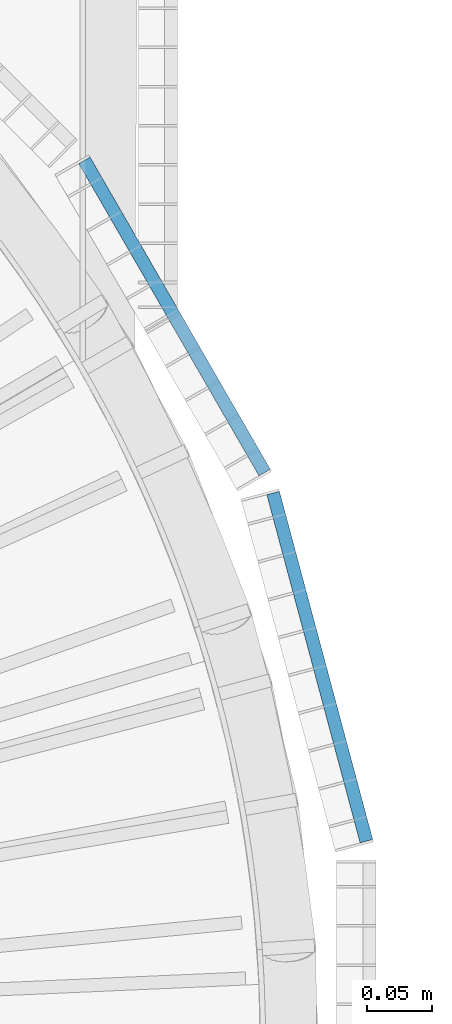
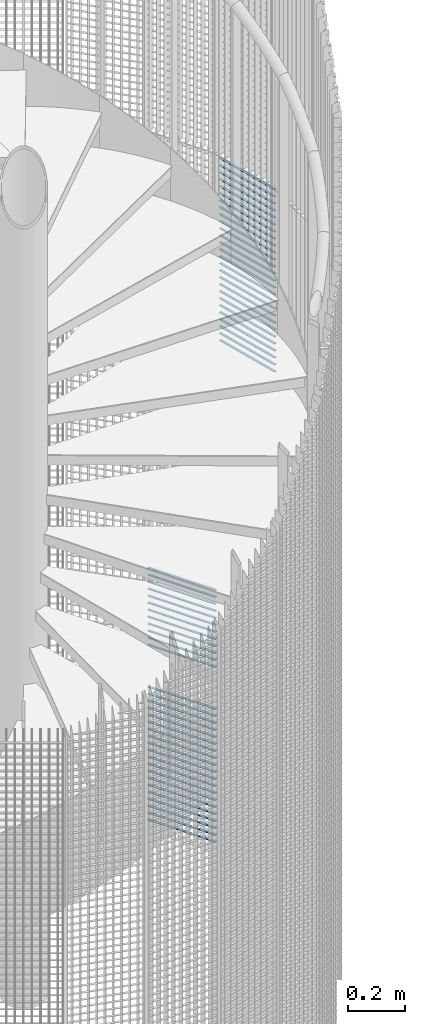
# One storey, part 298 of 1148: 59 beams, 2 elements without a shape of their own.
"""IFC2X3 building model written with IfcOpenShell, lengths in millimetres."""

from ifc_helpers import new_model, si_unit, frame, origin_with_axes, origin_2d_with_axis, place, context, subcontext, project, spatial, rectangle, extrude, material, type_object, element, aggregate, save


model = new_model("IFC2X3")

# Units and contexts
model_context = context("Model", 3, precision=1e-05, world=origin_with_axes())
body_context = subcontext(model_context, "Body", "Model", "MODEL_VIEW")
ifc_project = project(units=[si_unit("LENGTHUNIT", "METRE", prefix="MILLI"), si_unit("AREAUNIT", "SQUARE_METRE"), si_unit("VOLUMEUNIT", "CUBIC_METRE"), si_unit("MASSUNIT", "GRAM", prefix="KILO"), si_unit("TIMEUNIT", "SECOND"), si_unit("PLANEANGLEUNIT", "RADIAN"), si_unit("SOLIDANGLEUNIT", "STERADIAN"), si_unit("THERMODYNAMICTEMPERATUREUNIT", "DEGREE_CELSIUS"), si_unit("LUMINOUSINTENSITYUNIT", "LUMEN")], contexts=[model_context])

# Site, building, storey
site_placement = place(None, origin_with_axes())
site = spatial("IfcSite", under=ifc_project, at=site_placement, Name="Undefined", CompositionType="ELEMENT")
building_placement = place(site_placement, origin_with_axes())
building = spatial("IfcBuilding", under=site, at=building_placement, Name="Undefined", CompositionType="ELEMENT")
storey_placement = place(building_placement, origin_with_axes())
storey = spatial("IfcBuildingStorey", under=building, at=storey_placement, Name="Undefined", CompositionType="ELEMENT", Elevation=0.0)

# Assembly, beams
assembly_1_placement = place(storey_placement, origin_with_axes())
assembly_1 = element("IfcElementAssembly", 1, at=assembly_1_placement, inside=storey, Name="BORDURE", AssemblyPlace="NOTDEFINED", PredefinedType="NOTDEFINED")
ifc_material = material(Name="STEEL/S235JR")
beam_type = type_object("IfcBeamType", Name="PL2*10", PredefinedType="NOTDEFINED")
beam_1_placement = place(assembly_1_placement, frame((1033.29996828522, 437.231955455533, 779.999999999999), z_axis=(0.866025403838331, 0.499999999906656, 0.0), x_axis=(-0.49999999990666, 0.866025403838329, 0.0)))
beam_1 = element("IfcBeam", 2, at=beam_1_placement, type_object=beam_type, material=ifc_material, Name="ENTRETOISE", context=body_context, shape_type="SweptSolid", body=[
    extrude(rectangle(XDim=2.0, YDim=10.0, at=origin_2d_with_axis()), frame((275.999999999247, 9.09494701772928e-13, 1.53210777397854e-14), z_axis=(-1.0, 0.0, 0.0), x_axis=(0.0, -1.0, 0.0)), (0.0, 0.0, 1.0), 276.0),
])
beam_2_placement = place(assembly_1_placement, frame((1033.29996828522, 437.231955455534, 599.999999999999), z_axis=(0.866025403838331, 0.499999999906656, 0.0), x_axis=(-0.49999999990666, 0.866025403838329, 0.0)))
beam_2 = element("IfcBeam", 3, at=beam_2_placement, type_object=beam_type, material=ifc_material, Name="ENTRETOISE", context=body_context, shape_type="SweptSolid", body=[
    extrude(rectangle(XDim=2.0, YDim=10.0, at=origin_2d_with_axis()), frame((275.999999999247, 9.09494701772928e-13, 1.53210777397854e-14), z_axis=(-1.0, 0.0, 0.0), x_axis=(0.0, -1.0, 0.0)), (0.0, 0.0, 1.0), 276.0),
])
beam_3_placement = place(assembly_1_placement, frame((1033.29996828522, 437.231955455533, 809.999999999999), z_axis=(0.866025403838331, 0.499999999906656, 0.0), x_axis=(-0.49999999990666, 0.866025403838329, 0.0)))
beam_3 = element("IfcBeam", 4, at=beam_3_placement, type_object=beam_type, material=ifc_material, Name="ENTRETOISE", context=body_context, shape_type="SweptSolid", body=[
    extrude(rectangle(XDim=2.0, YDim=10.0, at=origin_2d_with_axis()), frame((275.999999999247, 9.09494701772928e-13, 1.53210777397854e-14), z_axis=(-1.0, 0.0, 0.0), x_axis=(0.0, -1.0, 0.0)), (0.0, 0.0, 1.0), 276.0),
])
beam_4_placement = place(assembly_1_placement, frame((1033.29996828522, 437.231955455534, 569.999999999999), z_axis=(0.866025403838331, 0.499999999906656, 0.0), x_axis=(-0.49999999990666, 0.866025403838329, 0.0)))
beam_4 = element("IfcBeam", 5, at=beam_4_placement, type_object=beam_type, material=ifc_material, Name="ENTRETOISE", context=body_context, shape_type="SweptSolid", body=[
    extrude(rectangle(XDim=2.0, YDim=10.0, at=origin_2d_with_axis()), frame((275.999999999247, 9.09494701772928e-13, 1.53210777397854e-14), z_axis=(-1.0, 0.0, 0.0), x_axis=(0.0, -1.0, 0.0)), (0.0, 0.0, 1.0), 276.0),
])
beam_5_placement = place(assembly_1_placement, frame((1033.29996828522, 437.231955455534, 539.999999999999), z_axis=(0.866025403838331, 0.499999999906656, 0.0), x_axis=(-0.49999999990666, 0.866025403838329, 0.0)))
beam_5 = element("IfcBeam", 6, at=beam_5_placement, type_object=beam_type, material=ifc_material, Name="ENTRETOISE", context=body_context, shape_type="SweptSolid", body=[
    extrude(rectangle(XDim=2.0, YDim=10.0, at=origin_2d_with_axis()), frame((275.999999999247, 9.09494701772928e-13, 1.53210777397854e-14), z_axis=(-1.0, 0.0, 0.0), x_axis=(0.0, -1.0, 0.0)), (0.0, 0.0, 1.0), 276.0),
])
beam_6_placement = place(assembly_1_placement, frame((1033.29996828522, 437.231955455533, 839.999999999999), z_axis=(0.866025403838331, 0.499999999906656, 0.0), x_axis=(-0.49999999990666, 0.866025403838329, 0.0)))
beam_6 = element("IfcBeam", 7, at=beam_6_placement, type_object=beam_type, material=ifc_material, Name="ENTRETOISE", context=body_context, shape_type="SweptSolid", body=[
    extrude(rectangle(XDim=2.0, YDim=10.0, at=origin_2d_with_axis()), frame((275.999999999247, 9.09494701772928e-13, 1.53210777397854e-14), z_axis=(-1.0, 0.0, 0.0), x_axis=(0.0, -1.0, 0.0)), (0.0, 0.0, 1.0), 276.0),
])
beam_7_placement = place(assembly_1_placement, frame((1033.29996828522, 437.231955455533, 509.999999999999), z_axis=(0.866025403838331, 0.499999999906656, 0.0), x_axis=(-0.49999999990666, 0.866025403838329, 0.0)))
beam_7 = element("IfcBeam", 8, at=beam_7_placement, type_object=beam_type, material=ifc_material, Name="ENTRETOISE", context=body_context, shape_type="SweptSolid", body=[
    extrude(rectangle(XDim=2.0, YDim=10.0, at=origin_2d_with_axis()), frame((275.999999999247, 9.09494701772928e-13, 1.53210777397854e-14), z_axis=(-1.0, 0.0, 0.0), x_axis=(0.0, -1.0, 0.0)), (0.0, 0.0, 1.0), 276.0),
])
beam_8_placement = place(assembly_1_placement, frame((1033.29996828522, 437.231955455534, 479.999999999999), z_axis=(0.866025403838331, 0.499999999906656, 0.0), x_axis=(-0.49999999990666, 0.866025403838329, 0.0)))
beam_8 = element("IfcBeam", 9, at=beam_8_placement, type_object=beam_type, material=ifc_material, Name="ENTRETOISE", context=body_context, shape_type="SweptSolid", body=[
    extrude(rectangle(XDim=2.0, YDim=10.0, at=origin_2d_with_axis()), frame((275.999999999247, 9.09494701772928e-13, 1.53210777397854e-14), z_axis=(-1.0, 0.0, 0.0), x_axis=(0.0, -1.0, 0.0)), (0.0, 0.0, 1.0), 276.0),
])
beam_9_placement = place(assembly_1_placement, frame((1033.29996828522, 437.231955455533, 869.999999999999), z_axis=(0.866025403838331, 0.499999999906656, 0.0), x_axis=(-0.49999999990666, 0.866025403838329, 0.0)))
beam_9 = element("IfcBeam", 10, at=beam_9_placement, type_object=beam_type, material=ifc_material, Name="ENTRETOISE", context=body_context, shape_type="SweptSolid", body=[
    extrude(rectangle(XDim=2.0, YDim=10.0, at=origin_2d_with_axis()), frame((275.999999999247, 9.09494701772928e-13, 1.53210777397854e-14), z_axis=(-1.0, 0.0, 0.0), x_axis=(0.0, -1.0, 0.0)), (0.0, 0.0, 1.0), 276.0),
])
beam_10_placement = place(assembly_1_placement, frame((1033.29996828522, 437.231955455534, 449.999999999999), z_axis=(0.866025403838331, 0.499999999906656, 0.0), x_axis=(-0.49999999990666, 0.866025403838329, 0.0)))
beam_10 = element("IfcBeam", 11, at=beam_10_placement, type_object=beam_type, material=ifc_material, Name="ENTRETOISE", context=body_context, shape_type="SweptSolid", body=[
    extrude(rectangle(XDim=2.0, YDim=10.0, at=origin_2d_with_axis()), frame((275.999999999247, 9.09494701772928e-13, 1.53210777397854e-14), z_axis=(-1.0, 0.0, 0.0), x_axis=(0.0, -1.0, 0.0)), (0.0, 0.0, 1.0), 276.0),
])
beam_11_placement = place(assembly_1_placement, frame((1033.29996828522, 437.231955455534, 419.999999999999), z_axis=(0.866025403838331, 0.499999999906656, 0.0), x_axis=(-0.49999999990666, 0.866025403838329, 0.0)))
beam_11 = element("IfcBeam", 12, at=beam_11_placement, type_object=beam_type, material=ifc_material, Name="ENTRETOISE", context=body_context, shape_type="SweptSolid", body=[
    extrude(rectangle(XDim=2.0, YDim=10.0, at=origin_2d_with_axis()), frame((275.999999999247, 9.09494701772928e-13, 1.53210777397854e-14), z_axis=(-1.0, 0.0, 0.0), x_axis=(0.0, -1.0, 0.0)), (0.0, 0.0, 1.0), 276.0),
])
beam_12_placement = place(assembly_1_placement, frame((1033.29996828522, 437.231955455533, 899.999999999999), z_axis=(0.866025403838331, 0.499999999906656, 0.0), x_axis=(-0.49999999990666, 0.866025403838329, 0.0)))
beam_12 = element("IfcBeam", 13, at=beam_12_placement, type_object=beam_type, material=ifc_material, Name="ENTRETOISE", context=body_context, shape_type="SweptSolid", body=[
    extrude(rectangle(XDim=2.0, YDim=10.0, at=origin_2d_with_axis()), frame((275.999999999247, 9.09494701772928e-13, 1.53210777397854e-14), z_axis=(-1.0, 0.0, 0.0), x_axis=(0.0, -1.0, 0.0)), (0.0, 0.0, 1.0), 276.0),
])
beam_13_placement = place(assembly_1_placement, frame((1033.29996828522, 437.231955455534, 389.999999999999), z_axis=(0.866025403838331, 0.499999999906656, 0.0), x_axis=(-0.49999999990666, 0.866025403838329, 0.0)))
beam_13 = element("IfcBeam", 14, at=beam_13_placement, type_object=beam_type, material=ifc_material, Name="ENTRETOISE", context=body_context, shape_type="SweptSolid", body=[
    extrude(rectangle(XDim=2.0, YDim=10.0, at=origin_2d_with_axis()), frame((275.999999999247, 9.09494701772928e-13, 1.53210777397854e-14), z_axis=(-1.0, 0.0, 0.0), x_axis=(0.0, -1.0, 0.0)), (0.0, 0.0, 1.0), 276.0),
])
beam_14_placement = place(assembly_1_placement, frame((1033.29996828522, 437.231955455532, 929.999999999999), z_axis=(0.866025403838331, 0.499999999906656, 0.0), x_axis=(-0.49999999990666, 0.866025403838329, 0.0)))
beam_14 = element("IfcBeam", 15, at=beam_14_placement, type_object=beam_type, material=ifc_material, Name="ENTRETOISE", context=body_context, shape_type="SweptSolid", body=[
    extrude(rectangle(XDim=2.0, YDim=10.0, at=origin_2d_with_axis()), frame((275.999999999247, 9.09494701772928e-13, 1.53210777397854e-14), z_axis=(-1.0, 0.0, 0.0), x_axis=(0.0, -1.0, 0.0)), (0.0, 0.0, 1.0), 276.0),
])
beam_15_placement = place(assembly_1_placement, frame((1033.29996828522, 437.231955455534, 359.999999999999), z_axis=(0.866025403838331, 0.499999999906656, 0.0), x_axis=(-0.49999999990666, 0.866025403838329, 0.0)))
beam_15 = element("IfcBeam", 16, at=beam_15_placement, type_object=beam_type, material=ifc_material, Name="ENTRETOISE", context=body_context, shape_type="SweptSolid", body=[
    extrude(rectangle(XDim=2.0, YDim=10.0, at=origin_2d_with_axis()), frame((275.999999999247, 9.09494701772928e-13, 1.53210777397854e-14), z_axis=(-1.0, 0.0, 0.0), x_axis=(0.0, -1.0, 0.0)), (0.0, 0.0, 1.0), 276.0),
])
beam_16_placement = place(assembly_1_placement, frame((1033.29996828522, 437.231955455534, 329.999999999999), z_axis=(0.866025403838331, 0.499999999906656, 0.0), x_axis=(-0.49999999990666, 0.866025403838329, 0.0)))
beam_16 = element("IfcBeam", 17, at=beam_16_placement, type_object=beam_type, material=ifc_material, Name="ENTRETOISE", context=body_context, shape_type="SweptSolid", body=[
    extrude(rectangle(XDim=2.0, YDim=10.0, at=origin_2d_with_axis()), frame((275.999999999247, 9.09494701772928e-13, 1.53210777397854e-14), z_axis=(-1.0, 0.0, 0.0), x_axis=(0.0, -1.0, 0.0)), (0.0, 0.0, 1.0), 276.0),
])
beam_17_placement = place(assembly_1_placement, frame((1033.29996828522, 437.231955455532, 959.999999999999), z_axis=(0.866025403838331, 0.499999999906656, 0.0), x_axis=(-0.49999999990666, 0.866025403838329, 0.0)))
beam_17 = element("IfcBeam", 18, at=beam_17_placement, type_object=beam_type, material=ifc_material, Name="ENTRETOISE", context=body_context, shape_type="SweptSolid", body=[
    extrude(rectangle(XDim=2.0, YDim=10.0, at=origin_2d_with_axis()), frame((275.999999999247, 9.09494701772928e-13, 1.53210777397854e-14), z_axis=(-1.0, 0.0, 0.0), x_axis=(0.0, -1.0, 0.0)), (0.0, 0.0, 1.0), 276.0),
])
beam_18_placement = place(assembly_1_placement, frame((1033.29996828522, 437.231955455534, 299.999999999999), z_axis=(0.866025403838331, 0.499999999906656, 0.0), x_axis=(-0.49999999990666, 0.866025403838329, 0.0)))
beam_18 = element("IfcBeam", 19, at=beam_18_placement, type_object=beam_type, material=ifc_material, Name="ENTRETOISE", context=body_context, shape_type="SweptSolid", body=[
    extrude(rectangle(XDim=2.0, YDim=10.0, at=origin_2d_with_axis()), frame((275.999999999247, 9.09494701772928e-13, 1.53210777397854e-14), z_axis=(-1.0, 0.0, 0.0), x_axis=(0.0, -1.0, 0.0)), (0.0, 0.0, 1.0), 276.0),
])
beam_19_placement = place(assembly_1_placement, frame((1033.29996828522, 437.231955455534, 269.999999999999), z_axis=(0.866025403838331, 0.499999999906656, 0.0), x_axis=(-0.49999999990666, 0.866025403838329, 0.0)))
beam_19 = element("IfcBeam", 20, at=beam_19_placement, type_object=beam_type, material=ifc_material, Name="ENTRETOISE", context=body_context, shape_type="SweptSolid", body=[
    extrude(rectangle(XDim=2.0, YDim=10.0, at=origin_2d_with_axis()), frame((275.999999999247, 9.09494701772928e-13, 1.53210777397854e-14), z_axis=(-1.0, 0.0, 0.0), x_axis=(0.0, -1.0, 0.0)), (0.0, 0.0, 1.0), 276.0),
])
beam_20_placement = place(assembly_1_placement, frame((1033.29996828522, 437.231955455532, 989.999999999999), z_axis=(0.866025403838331, 0.499999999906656, 0.0), x_axis=(-0.49999999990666, 0.866025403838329, 0.0)))
beam_20 = element("IfcBeam", 21, at=beam_20_placement, type_object=beam_type, material=ifc_material, Name="ENTRETOISE", context=body_context, shape_type="SweptSolid", body=[
    extrude(rectangle(XDim=2.0, YDim=10.0, at=origin_2d_with_axis()), frame((275.999999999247, 9.09494701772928e-13, 1.53210777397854e-14), z_axis=(-1.0, 0.0, 0.0), x_axis=(0.0, -1.0, 0.0)), (0.0, 0.0, 1.0), 276.0),
])
beam_21_placement = place(assembly_1_placement, frame((1033.29996828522, 437.231955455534, 239.999999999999), z_axis=(0.866025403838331, 0.499999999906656, 0.0), x_axis=(-0.49999999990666, 0.866025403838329, 0.0)))
beam_21 = element("IfcBeam", 22, at=beam_21_placement, type_object=beam_type, material=ifc_material, Name="ENTRETOISE", context=body_context, shape_type="SweptSolid", body=[
    extrude(rectangle(XDim=2.0, YDim=10.0, at=origin_2d_with_axis()), frame((275.999999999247, 9.09494701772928e-13, 1.53210777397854e-14), z_axis=(-1.0, 0.0, 0.0), x_axis=(0.0, -1.0, 0.0)), (0.0, 0.0, 1.0), 276.0),
])
beam_22_placement = place(assembly_1_placement, frame((1033.29996828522, 437.231955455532, 1020.0), z_axis=(0.866025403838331, 0.499999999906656, 0.0), x_axis=(-0.49999999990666, 0.866025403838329, 0.0)))
beam_22 = element("IfcBeam", 23, at=beam_22_placement, type_object=beam_type, material=ifc_material, Name="ENTRETOISE", context=body_context, shape_type="SweptSolid", body=[
    extrude(rectangle(XDim=2.0, YDim=10.0, at=origin_2d_with_axis()), frame((275.999999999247, 9.09494701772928e-13, 1.53210777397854e-14), z_axis=(-1.0, 0.0, 0.0), x_axis=(0.0, -1.0, 0.0)), (0.0, 0.0, 1.0), 276.0),
])
beam_23_placement = place(assembly_1_placement, frame((1033.29996828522, 437.231955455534, 209.999999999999), z_axis=(0.866025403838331, 0.499999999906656, 0.0), x_axis=(-0.49999999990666, 0.866025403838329, 0.0)))
beam_23 = element("IfcBeam", 24, at=beam_23_placement, type_object=beam_type, material=ifc_material, Name="ENTRETOISE", context=body_context, shape_type="SweptSolid", body=[
    extrude(rectangle(XDim=2.0, YDim=10.0, at=origin_2d_with_axis()), frame((275.999999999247, 9.09494701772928e-13, 1.53210777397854e-14), z_axis=(-1.0, 0.0, 0.0), x_axis=(0.0, -1.0, 0.0)), (0.0, 0.0, 1.0), 276.0),
])
beam_24_placement = place(assembly_1_placement, frame((1033.29996828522, 437.231955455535, 179.999999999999), z_axis=(0.866025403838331, 0.499999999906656, 0.0), x_axis=(-0.49999999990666, 0.866025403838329, 0.0)))
beam_24 = element("IfcBeam", 25, at=beam_24_placement, type_object=beam_type, material=ifc_material, Name="ENTRETOISE", context=body_context, shape_type="SweptSolid", body=[
    extrude(rectangle(XDim=2.0, YDim=10.0, at=origin_2d_with_axis()), frame((275.999999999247, 9.09494701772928e-13, 1.53210777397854e-14), z_axis=(-1.0, 0.0, 0.0), x_axis=(0.0, -1.0, 0.0)), (0.0, 0.0, 1.0), 276.0),
])
beam_25_placement = place(assembly_1_placement, frame((1033.29996828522, 437.231955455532, 1050.0), z_axis=(0.866025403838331, 0.499999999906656, 0.0), x_axis=(-0.49999999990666, 0.866025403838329, 0.0)))
beam_25 = element("IfcBeam", 26, at=beam_25_placement, type_object=beam_type, material=ifc_material, Name="ENTRETOISE", context=body_context, shape_type="SweptSolid", body=[
    extrude(rectangle(XDim=2.0, YDim=10.0, at=origin_2d_with_axis()), frame((275.999999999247, 9.09494701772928e-13, 1.53210777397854e-14), z_axis=(-1.0, 0.0, 0.0), x_axis=(0.0, -1.0, 0.0)), (0.0, 0.0, 1.0), 276.0),
])
beam_26_placement = place(assembly_1_placement, frame((1033.29996828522, 437.231955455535, 149.999999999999), z_axis=(0.866025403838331, 0.499999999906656, 0.0), x_axis=(-0.49999999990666, 0.866025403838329, 0.0)))
beam_26 = element("IfcBeam", 27, at=beam_26_placement, type_object=beam_type, material=ifc_material, Name="ENTRETOISE", context=body_context, shape_type="SweptSolid", body=[
    extrude(rectangle(XDim=2.0, YDim=10.0, at=origin_2d_with_axis()), frame((275.999999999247, 9.09494701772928e-13, 1.53210777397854e-14), z_axis=(-1.0, 0.0, 0.0), x_axis=(0.0, -1.0, 0.0)), (0.0, 0.0, 1.0), 276.0),
])
beam_27_placement = place(assembly_1_placement, frame((1033.29996828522, 437.231955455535, 119.999999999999), z_axis=(0.866025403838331, 0.499999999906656, 0.0), x_axis=(-0.49999999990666, 0.866025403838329, 0.0)))
beam_27 = element("IfcBeam", 28, at=beam_27_placement, type_object=beam_type, material=ifc_material, Name="ENTRETOISE", context=body_context, shape_type="SweptSolid", body=[
    extrude(rectangle(XDim=2.0, YDim=10.0, at=origin_2d_with_axis()), frame((275.999999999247, 9.09494701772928e-13, 1.53210777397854e-14), z_axis=(-1.0, 0.0, 0.0), x_axis=(0.0, -1.0, 0.0)), (0.0, 0.0, 1.0), 276.0),
])
beam_28_placement = place(assembly_1_placement, frame((1033.29996828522, 437.231955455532, 1080.0), z_axis=(0.866025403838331, 0.499999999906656, 0.0), x_axis=(-0.49999999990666, 0.866025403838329, 0.0)))
beam_28 = element("IfcBeam", 29, at=beam_28_placement, type_object=beam_type, material=ifc_material, Name="ENTRETOISE", context=body_context, shape_type="SweptSolid", body=[
    extrude(rectangle(XDim=2.0, YDim=10.0, at=origin_2d_with_axis()), frame((275.999999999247, 9.09494701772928e-13, 1.53210777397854e-14), z_axis=(-1.0, 0.0, 0.0), x_axis=(0.0, -1.0, 0.0)), (0.0, 0.0, 1.0), 276.0),
])
beam_29_placement = place(assembly_1_placement, frame((1033.29996828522, 437.231955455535, 89.9999999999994), z_axis=(0.866025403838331, 0.499999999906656, 0.0), x_axis=(-0.49999999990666, 0.866025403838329, 0.0)))
beam_29 = element("IfcBeam", 30, at=beam_29_placement, type_object=beam_type, material=ifc_material, Name="ENTRETOISE", context=body_context, shape_type="SweptSolid", body=[
    extrude(rectangle(XDim=2.0, YDim=10.0, at=origin_2d_with_axis()), frame((275.999999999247, 9.09494701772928e-13, 1.53210777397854e-14), z_axis=(-1.0, 0.0, 0.0), x_axis=(0.0, -1.0, 0.0)), (0.0, 0.0, 1.0), 276.0),
])
beam_30_placement = place(assembly_1_placement, frame((1033.29996828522, 437.231955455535, 59.9999999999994), z_axis=(0.866025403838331, 0.499999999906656, 0.0), x_axis=(-0.49999999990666, 0.866025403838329, 0.0)))
beam_30 = element("IfcBeam", 31, at=beam_30_placement, type_object=beam_type, material=ifc_material, Name="ENTRETOISE", context=body_context, shape_type="SweptSolid", body=[
    extrude(rectangle(XDim=2.0, YDim=10.0, at=origin_2d_with_axis()), frame((275.999999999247, 9.09494701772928e-13, 1.53210777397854e-14), z_axis=(-1.0, 0.0, 0.0), x_axis=(0.0, -1.0, 0.0)), (0.0, 0.0, 1.0), 276.0),
])
beam_31_placement = place(assembly_1_placement, frame((1033.29996828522, 437.231955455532, 1110.0), z_axis=(0.866025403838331, 0.499999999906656, 0.0), x_axis=(-0.49999999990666, 0.866025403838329, 0.0)))
beam_31 = element("IfcBeam", 32, at=beam_31_placement, type_object=beam_type, material=ifc_material, Name="ENTRETOISE", context=body_context, shape_type="SweptSolid", body=[
    extrude(rectangle(XDim=2.0, YDim=10.0, at=origin_2d_with_axis()), frame((275.999999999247, 9.09494701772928e-13, 1.53210777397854e-14), z_axis=(-1.0, 0.0, 0.0), x_axis=(0.0, -1.0, 0.0)), (0.0, 0.0, 1.0), 276.0),
])
beam_32_placement = place(assembly_1_placement, frame((1033.29996828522, 437.231955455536, 29.9999999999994), z_axis=(0.866025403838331, 0.499999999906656, 0.0), x_axis=(-0.49999999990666, 0.866025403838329, 0.0)))
beam_32 = element("IfcBeam", 33, at=beam_32_placement, type_object=beam_type, material=ifc_material, Name="ENTRETOISE", context=body_context, shape_type="SweptSolid", body=[
    extrude(rectangle(XDim=2.0, YDim=10.0, at=origin_2d_with_axis()), frame((275.999999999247, 9.09494701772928e-13, 1.53210777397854e-14), z_axis=(-1.0, 0.0, 0.0), x_axis=(0.0, -1.0, 0.0)), (0.0, 0.0, 1.0), 276.0),
])
aggregate(assembly_1, [beam_1, beam_2, beam_3, beam_4, beam_5, beam_6, beam_7, beam_8, beam_9, beam_10, beam_11, beam_12, beam_13, beam_14, beam_15, beam_16, beam_17, beam_18, beam_19, beam_20, beam_21, beam_22, beam_23, beam_24, beam_25, beam_26, beam_27, beam_28, beam_29, beam_30, beam_31, beam_32])

assembly_2_placement = place(storey_placement, origin_with_axes())
assembly_2 = element("IfcElementAssembly", 34, at=assembly_2_placement, inside=storey, Name="BORDURE", AssemblyPlace="NOTDEFINED", PredefinedType="NOTDEFINED")
beam_33_placement = place(assembly_2_placement, frame((1111.25508286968, 154.895926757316, 2970.0), z_axis=(0.965925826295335, 0.258819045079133, 0.0), x_axis=(-0.258819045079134, 0.965925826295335, 0.0)))
beam_33 = element("IfcBeam", 35, at=beam_33_placement, type_object=beam_type, material=ifc_material, Name="ENTRETOISE", context=body_context, shape_type="SweptSolid", body=[
    extrude(rectangle(XDim=2.0, YDim=10.0, at=origin_2d_with_axis()), frame((275.999999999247, 9.09494701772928e-13, 1.53210777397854e-14), z_axis=(-1.0, 0.0, 0.0), x_axis=(0.0, -1.0, 0.0)), (0.0, 0.0, 1.0), 276.0),
])
beam_34_placement = place(assembly_2_placement, frame((1111.25508286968, 154.895926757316, 2940.0), z_axis=(0.965925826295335, 0.258819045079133, 0.0), x_axis=(-0.258819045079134, 0.965925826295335, 0.0)))
beam_34 = element("IfcBeam", 36, at=beam_34_placement, type_object=beam_type, material=ifc_material, Name="ENTRETOISE", context=body_context, shape_type="SweptSolid", body=[
    extrude(rectangle(XDim=2.0, YDim=10.0, at=origin_2d_with_axis()), frame((275.999999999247, 9.09494701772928e-13, 1.53210777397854e-14), z_axis=(-1.0, 0.0, 0.0), x_axis=(0.0, -1.0, 0.0)), (0.0, 0.0, 1.0), 276.0),
])
beam_35_placement = place(assembly_2_placement, frame((1111.25508286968, 154.895926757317, 2910.0), z_axis=(0.965925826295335, 0.258819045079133, 0.0), x_axis=(-0.258819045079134, 0.965925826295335, 0.0)))
beam_35 = element("IfcBeam", 37, at=beam_35_placement, type_object=beam_type, material=ifc_material, Name="ENTRETOISE", context=body_context, shape_type="SweptSolid", body=[
    extrude(rectangle(XDim=2.0, YDim=10.0, at=origin_2d_with_axis()), frame((275.999999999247, 9.09494701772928e-13, 1.53210777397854e-14), z_axis=(-1.0, 0.0, 0.0), x_axis=(0.0, -1.0, 0.0)), (0.0, 0.0, 1.0), 276.0),
])
beam_36_placement = place(assembly_2_placement, frame((1111.25508286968, 154.895926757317, 2880.0), z_axis=(0.965925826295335, 0.258819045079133, 0.0), x_axis=(-0.258819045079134, 0.965925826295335, 0.0)))
beam_36 = element("IfcBeam", 38, at=beam_36_placement, type_object=beam_type, material=ifc_material, Name="ENTRETOISE", context=body_context, shape_type="SweptSolid", body=[
    extrude(rectangle(XDim=2.0, YDim=10.0, at=origin_2d_with_axis()), frame((275.999999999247, 9.09494701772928e-13, 1.53210777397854e-14), z_axis=(-1.0, 0.0, 0.0), x_axis=(0.0, -1.0, 0.0)), (0.0, 0.0, 1.0), 276.0),
])
beam_37_placement = place(assembly_2_placement, frame((1111.25508286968, 154.895926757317, 2850.0), z_axis=(0.965925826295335, 0.258819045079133, 0.0), x_axis=(-0.258819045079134, 0.965925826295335, 0.0)))
beam_37 = element("IfcBeam", 39, at=beam_37_placement, type_object=beam_type, material=ifc_material, Name="ENTRETOISE", context=body_context, shape_type="SweptSolid", body=[
    extrude(rectangle(XDim=2.0, YDim=10.0, at=origin_2d_with_axis()), frame((275.999999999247, 9.09494701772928e-13, 1.53210777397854e-14), z_axis=(-1.0, 0.0, 0.0), x_axis=(0.0, -1.0, 0.0)), (0.0, 0.0, 1.0), 276.0),
])
beam_38_placement = place(assembly_2_placement, frame((1111.25508286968, 154.895926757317, 2820.0), z_axis=(0.965925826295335, 0.258819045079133, 0.0), x_axis=(-0.258819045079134, 0.965925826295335, 0.0)))
beam_38 = element("IfcBeam", 40, at=beam_38_placement, type_object=beam_type, material=ifc_material, Name="ENTRETOISE", context=body_context, shape_type="SweptSolid", body=[
    extrude(rectangle(XDim=2.0, YDim=10.0, at=origin_2d_with_axis()), frame((275.999999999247, 9.09494701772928e-13, 1.53210777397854e-14), z_axis=(-1.0, 0.0, 0.0), x_axis=(0.0, -1.0, 0.0)), (0.0, 0.0, 1.0), 276.0),
])
beam_39_placement = place(assembly_2_placement, frame((1111.25508286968, 154.895926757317, 2790.0), z_axis=(0.965925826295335, 0.258819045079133, 0.0), x_axis=(-0.258819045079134, 0.965925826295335, 0.0)))
beam_39 = element("IfcBeam", 41, at=beam_39_placement, type_object=beam_type, material=ifc_material, Name="ENTRETOISE", context=body_context, shape_type="SweptSolid", body=[
    extrude(rectangle(XDim=2.0, YDim=10.0, at=origin_2d_with_axis()), frame((275.999999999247, 9.09494701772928e-13, 1.53210777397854e-14), z_axis=(-1.0, 0.0, 0.0), x_axis=(0.0, -1.0, 0.0)), (0.0, 0.0, 1.0), 276.0),
])
beam_40_placement = place(assembly_2_placement, frame((1111.25508286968, 154.895926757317, 2760.0), z_axis=(0.965925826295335, 0.258819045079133, 0.0), x_axis=(-0.258819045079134, 0.965925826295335, 0.0)))
beam_40 = element("IfcBeam", 42, at=beam_40_placement, type_object=beam_type, material=ifc_material, Name="ENTRETOISE", context=body_context, shape_type="SweptSolid", body=[
    extrude(rectangle(XDim=2.0, YDim=10.0, at=origin_2d_with_axis()), frame((275.999999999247, 9.09494701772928e-13, 1.53210777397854e-14), z_axis=(-1.0, 0.0, 0.0), x_axis=(0.0, -1.0, 0.0)), (0.0, 0.0, 1.0), 276.0),
])
beam_41_placement = place(assembly_2_placement, frame((1111.25508286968, 154.895926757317, 2730.0), z_axis=(0.965925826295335, 0.258819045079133, 0.0), x_axis=(-0.258819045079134, 0.965925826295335, 0.0)))
beam_41 = element("IfcBeam", 43, at=beam_41_placement, type_object=beam_type, material=ifc_material, Name="ENTRETOISE", context=body_context, shape_type="SweptSolid", body=[
    extrude(rectangle(XDim=2.0, YDim=10.0, at=origin_2d_with_axis()), frame((275.999999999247, 9.09494701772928e-13, 1.53210777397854e-14), z_axis=(-1.0, 0.0, 0.0), x_axis=(0.0, -1.0, 0.0)), (0.0, 0.0, 1.0), 276.0),
])
beam_42_placement = place(assembly_2_placement, frame((1111.25508286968, 154.895926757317, 2700.0), z_axis=(0.965925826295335, 0.258819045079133, 0.0), x_axis=(-0.258819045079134, 0.965925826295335, 0.0)))
beam_42 = element("IfcBeam", 44, at=beam_42_placement, type_object=beam_type, material=ifc_material, Name="ENTRETOISE", context=body_context, shape_type="SweptSolid", body=[
    extrude(rectangle(XDim=2.0, YDim=10.0, at=origin_2d_with_axis()), frame((275.999999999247, 9.09494701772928e-13, 1.53210777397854e-14), z_axis=(-1.0, 0.0, 0.0), x_axis=(0.0, -1.0, 0.0)), (0.0, 0.0, 1.0), 276.0),
])
beam_43_placement = place(assembly_2_placement, frame((1111.25508286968, 154.895926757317, 2670.0), z_axis=(0.965925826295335, 0.258819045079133, 0.0), x_axis=(-0.258819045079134, 0.965925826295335, 0.0)))
beam_43 = element("IfcBeam", 45, at=beam_43_placement, type_object=beam_type, material=ifc_material, Name="ENTRETOISE", context=body_context, shape_type="SweptSolid", body=[
    extrude(rectangle(XDim=2.0, YDim=10.0, at=origin_2d_with_axis()), frame((275.999999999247, 9.09494701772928e-13, 1.53210777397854e-14), z_axis=(-1.0, 0.0, 0.0), x_axis=(0.0, -1.0, 0.0)), (0.0, 0.0, 1.0), 276.0),
])
beam_44_placement = place(assembly_2_placement, frame((1111.25508286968, 154.895926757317, 2640.0), z_axis=(0.965925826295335, 0.258819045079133, 0.0), x_axis=(-0.258819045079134, 0.965925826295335, 0.0)))
beam_44 = element("IfcBeam", 46, at=beam_44_placement, type_object=beam_type, material=ifc_material, Name="ENTRETOISE", context=body_context, shape_type="SweptSolid", body=[
    extrude(rectangle(XDim=2.0, YDim=10.0, at=origin_2d_with_axis()), frame((275.999999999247, 9.09494701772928e-13, 1.53210777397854e-14), z_axis=(-1.0, 0.0, 0.0), x_axis=(0.0, -1.0, 0.0)), (0.0, 0.0, 1.0), 276.0),
])
beam_45_placement = place(assembly_2_placement, frame((1111.25508286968, 154.895926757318, 2610.0), z_axis=(0.965925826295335, 0.258819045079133, 0.0), x_axis=(-0.258819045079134, 0.965925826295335, 0.0)))
beam_45 = element("IfcBeam", 47, at=beam_45_placement, type_object=beam_type, material=ifc_material, Name="ENTRETOISE", context=body_context, shape_type="SweptSolid", body=[
    extrude(rectangle(XDim=2.0, YDim=10.0, at=origin_2d_with_axis()), frame((275.999999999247, 9.09494701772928e-13, 1.53210777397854e-14), z_axis=(-1.0, 0.0, 0.0), x_axis=(0.0, -1.0, 0.0)), (0.0, 0.0, 1.0), 276.0),
])
beam_46_placement = place(assembly_2_placement, frame((1111.25508286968, 154.895926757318, 2580.0), z_axis=(0.965925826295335, 0.258819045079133, 0.0), x_axis=(-0.258819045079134, 0.965925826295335, 0.0)))
beam_46 = element("IfcBeam", 48, at=beam_46_placement, type_object=beam_type, material=ifc_material, Name="ENTRETOISE", context=body_context, shape_type="SweptSolid", body=[
    extrude(rectangle(XDim=2.0, YDim=10.0, at=origin_2d_with_axis()), frame((275.999999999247, 9.09494701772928e-13, 1.53210777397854e-14), z_axis=(-1.0, 0.0, 0.0), x_axis=(0.0, -1.0, 0.0)), (0.0, 0.0, 1.0), 276.0),
])
beam_47_placement = place(assembly_2_placement, frame((1111.25508286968, 154.895926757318, 2550.0), z_axis=(0.965925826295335, 0.258819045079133, 0.0), x_axis=(-0.258819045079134, 0.965925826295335, 0.0)))
beam_47 = element("IfcBeam", 49, at=beam_47_placement, type_object=beam_type, material=ifc_material, Name="ENTRETOISE", context=body_context, shape_type="SweptSolid", body=[
    extrude(rectangle(XDim=2.0, YDim=10.0, at=origin_2d_with_axis()), frame((275.999999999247, 9.09494701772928e-13, 1.53210777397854e-14), z_axis=(-1.0, 0.0, 0.0), x_axis=(0.0, -1.0, 0.0)), (0.0, 0.0, 1.0), 276.0),
])
beam_48_placement = place(assembly_2_placement, frame((1111.25508286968, 154.895926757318, 2520.0), z_axis=(0.965925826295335, 0.258819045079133, 0.0), x_axis=(-0.258819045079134, 0.965925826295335, 0.0)))
beam_48 = element("IfcBeam", 50, at=beam_48_placement, type_object=beam_type, material=ifc_material, Name="ENTRETOISE", context=body_context, shape_type="SweptSolid", body=[
    extrude(rectangle(XDim=2.0, YDim=10.0, at=origin_2d_with_axis()), frame((275.999999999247, 9.09494701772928e-13, 1.53210777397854e-14), z_axis=(-1.0, 0.0, 0.0), x_axis=(0.0, -1.0, 0.0)), (0.0, 0.0, 1.0), 276.0),
])
beam_49_placement = place(assembly_2_placement, frame((1111.25508286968, 154.895926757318, 2490.0), z_axis=(0.965925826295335, 0.258819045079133, 0.0), x_axis=(-0.258819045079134, 0.965925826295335, 0.0)))
beam_49 = element("IfcBeam", 51, at=beam_49_placement, type_object=beam_type, material=ifc_material, Name="ENTRETOISE", context=body_context, shape_type="SweptSolid", body=[
    extrude(rectangle(XDim=2.0, YDim=10.0, at=origin_2d_with_axis()), frame((275.999999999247, 9.09494701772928e-13, 1.53210777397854e-14), z_axis=(-1.0, 0.0, 0.0), x_axis=(0.0, -1.0, 0.0)), (0.0, 0.0, 1.0), 276.0),
])
beam_50_placement = place(assembly_2_placement, frame((1111.25508286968, 154.895926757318, 2460.0), z_axis=(0.965925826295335, 0.258819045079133, 0.0), x_axis=(-0.258819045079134, 0.965925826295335, 0.0)))
beam_50 = element("IfcBeam", 52, at=beam_50_placement, type_object=beam_type, material=ifc_material, Name="ENTRETOISE", context=body_context, shape_type="SweptSolid", body=[
    extrude(rectangle(XDim=2.0, YDim=10.0, at=origin_2d_with_axis()), frame((275.999999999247, 9.09494701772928e-13, 1.53210777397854e-14), z_axis=(-1.0, 0.0, 0.0), x_axis=(0.0, -1.0, 0.0)), (0.0, 0.0, 1.0), 276.0),
])
beam_51_placement = place(assembly_2_placement, frame((1111.25508286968, 154.895926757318, 2430.0), z_axis=(0.965925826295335, 0.258819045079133, 0.0), x_axis=(-0.258819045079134, 0.965925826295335, 0.0)))
beam_51 = element("IfcBeam", 53, at=beam_51_placement, type_object=beam_type, material=ifc_material, Name="ENTRETOISE", context=body_context, shape_type="SweptSolid", body=[
    extrude(rectangle(XDim=2.0, YDim=10.0, at=origin_2d_with_axis()), frame((275.999999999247, 9.09494701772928e-13, 1.53210777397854e-14), z_axis=(-1.0, 0.0, 0.0), x_axis=(0.0, -1.0, 0.0)), (0.0, 0.0, 1.0), 276.0),
])
beam_52_placement = place(assembly_2_placement, frame((1111.25508286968, 154.895926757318, 2400.0), z_axis=(0.965925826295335, 0.258819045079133, 0.0), x_axis=(-0.258819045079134, 0.965925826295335, 0.0)))
beam_52 = element("IfcBeam", 54, at=beam_52_placement, type_object=beam_type, material=ifc_material, Name="ENTRETOISE", context=body_context, shape_type="SweptSolid", body=[
    extrude(rectangle(XDim=2.0, YDim=10.0, at=origin_2d_with_axis()), frame((275.999999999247, 9.09494701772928e-13, 1.53210777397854e-14), z_axis=(-1.0, 0.0, 0.0), x_axis=(0.0, -1.0, 0.0)), (0.0, 0.0, 1.0), 276.0),
])
beam_53_placement = place(assembly_2_placement, frame((1111.25508286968, 154.895926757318, 2370.0), z_axis=(0.965925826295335, 0.258819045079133, 0.0), x_axis=(-0.258819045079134, 0.965925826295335, 0.0)))
beam_53 = element("IfcBeam", 55, at=beam_53_placement, type_object=beam_type, material=ifc_material, Name="ENTRETOISE", context=body_context, shape_type="SweptSolid", body=[
    extrude(rectangle(XDim=2.0, YDim=10.0, at=origin_2d_with_axis()), frame((275.999999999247, 9.09494701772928e-13, 1.53210777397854e-14), z_axis=(-1.0, 0.0, 0.0), x_axis=(0.0, -1.0, 0.0)), (0.0, 0.0, 1.0), 276.0),
])
beam_54_placement = place(assembly_2_placement, frame((1111.25508286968, 154.895926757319, 2340.0), z_axis=(0.965925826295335, 0.258819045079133, 0.0), x_axis=(-0.258819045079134, 0.965925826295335, 0.0)))
beam_54 = element("IfcBeam", 56, at=beam_54_placement, type_object=beam_type, material=ifc_material, Name="ENTRETOISE", context=body_context, shape_type="SweptSolid", body=[
    extrude(rectangle(XDim=2.0, YDim=10.0, at=origin_2d_with_axis()), frame((275.999999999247, 9.09494701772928e-13, 1.53210777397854e-14), z_axis=(-1.0, 0.0, 0.0), x_axis=(0.0, -1.0, 0.0)), (0.0, 0.0, 1.0), 276.0),
])
beam_55_placement = place(assembly_2_placement, frame((1111.25508286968, 154.895926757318, 2310.0), z_axis=(0.965925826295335, 0.258819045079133, 0.0), x_axis=(-0.258819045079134, 0.965925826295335, 0.0)))
beam_55 = element("IfcBeam", 57, at=beam_55_placement, type_object=beam_type, material=ifc_material, Name="ENTRETOISE", context=body_context, shape_type="SweptSolid", body=[
    extrude(rectangle(XDim=2.0, YDim=10.0, at=origin_2d_with_axis()), frame((275.999999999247, 9.09494701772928e-13, 1.53210777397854e-14), z_axis=(-1.0, 0.0, 0.0), x_axis=(0.0, -1.0, 0.0)), (0.0, 0.0, 1.0), 276.0),
])
beam_56_placement = place(assembly_2_placement, frame((1111.25508286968, 154.895926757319, 2280.0), z_axis=(0.965925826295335, 0.258819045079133, 0.0), x_axis=(-0.258819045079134, 0.965925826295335, 0.0)))
beam_56 = element("IfcBeam", 58, at=beam_56_placement, type_object=beam_type, material=ifc_material, Name="ENTRETOISE", context=body_context, shape_type="SweptSolid", body=[
    extrude(rectangle(XDim=2.0, YDim=10.0, at=origin_2d_with_axis()), frame((275.999999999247, 9.09494701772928e-13, 1.53210777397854e-14), z_axis=(-1.0, 0.0, 0.0), x_axis=(0.0, -1.0, 0.0)), (0.0, 0.0, 1.0), 276.0),
])
beam_57_placement = place(assembly_2_placement, frame((1111.25508286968, 154.895926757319, 2250.0), z_axis=(0.965925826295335, 0.258819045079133, 0.0), x_axis=(-0.258819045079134, 0.965925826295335, 0.0)))
beam_57 = element("IfcBeam", 59, at=beam_57_placement, type_object=beam_type, material=ifc_material, Name="ENTRETOISE", context=body_context, shape_type="SweptSolid", body=[
    extrude(rectangle(XDim=2.0, YDim=10.0, at=origin_2d_with_axis()), frame((275.999999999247, 9.09494701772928e-13, 1.53210777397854e-14), z_axis=(-1.0, 0.0, 0.0), x_axis=(0.0, -1.0, 0.0)), (0.0, 0.0, 1.0), 276.0),
])
beam_58_placement = place(assembly_2_placement, frame((1111.25508286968, 154.895926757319, 2220.0), z_axis=(0.965925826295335, 0.258819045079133, 0.0), x_axis=(-0.258819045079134, 0.965925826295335, 0.0)))
beam_58 = element("IfcBeam", 60, at=beam_58_placement, type_object=beam_type, material=ifc_material, Name="ENTRETOISE", context=body_context, shape_type="SweptSolid", body=[
    extrude(rectangle(XDim=2.0, YDim=10.0, at=origin_2d_with_axis()), frame((275.999999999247, 9.09494701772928e-13, 1.53210777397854e-14), z_axis=(-1.0, 0.0, 0.0), x_axis=(0.0, -1.0, 0.0)), (0.0, 0.0, 1.0), 276.0),
])
beam_59_placement = place(assembly_2_placement, frame((1111.25508286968, 154.895926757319, 2190.0), z_axis=(0.965925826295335, 0.258819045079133, 0.0), x_axis=(-0.258819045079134, 0.965925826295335, 0.0)))
beam_59 = element("IfcBeam", 61, at=beam_59_placement, type_object=beam_type, material=ifc_material, Name="ENTRETOISE", context=body_context, shape_type="SweptSolid", body=[
    extrude(rectangle(XDim=2.0, YDim=10.0, at=origin_2d_with_axis()), frame((275.999999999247, 9.09494701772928e-13, 1.53210777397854e-14), z_axis=(-1.0, 0.0, 0.0), x_axis=(0.0, -1.0, 0.0)), (0.0, 0.0, 1.0), 276.0),
])
aggregate(assembly_2, [beam_33, beam_34, beam_35, beam_36, beam_37, beam_38, beam_39, beam_40, beam_41, beam_42, beam_43, beam_44, beam_45, beam_46, beam_47, beam_48, beam_49, beam_50, beam_51, beam_52, beam_53, beam_54, beam_55, beam_56, beam_57, beam_58, beam_59])

save(model, "model.ifc")
